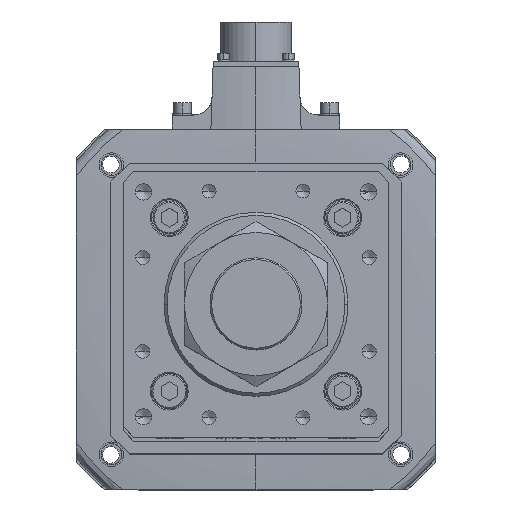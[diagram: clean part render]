
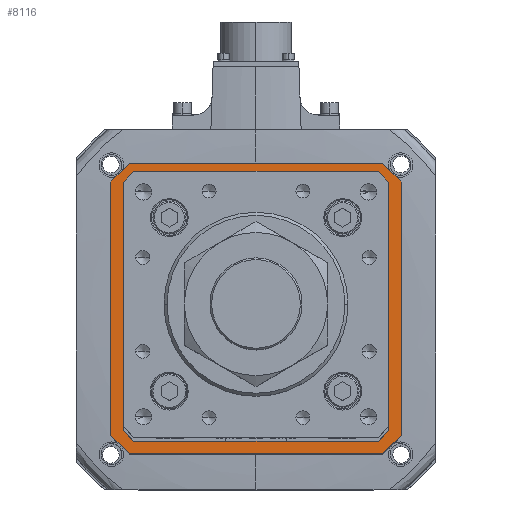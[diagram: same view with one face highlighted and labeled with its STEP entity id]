
A CAD part, top view. The second image highlights one B-rep face of the part: STEP entity #8116.
In plain terms, the highlighted planar face has unit normal (0, 0, 1).
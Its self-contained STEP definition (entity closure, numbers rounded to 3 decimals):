
#214 = EDGE_CURVE ( 'NONE', #35438, #10763, #54571, .T. ) ;
#767 = ORIENTED_EDGE ( 'NONE', *, *, #33513, .F. ) ;
#1203 = ORIENTED_EDGE ( 'NONE', *, *, #32054, .T. ) ;
#1259 = ORIENTED_EDGE ( 'NONE', *, *, #214, .F. ) ;
#1276 = LINE ( 'NONE', #25733, #31953 ) ;
#1422 = LINE ( 'NONE', #43542, #14830 ) ;
#1455 = VERTEX_POINT ( 'NONE', #46460 ) ;
#2512 = VERTEX_POINT ( 'NONE', #55108 ) ;
#3162 = VECTOR ( 'NONE', #33665, 1000. ) ;
#3358 = VECTOR ( 'NONE', #19292, 1000. ) ;
#3932 = VERTEX_POINT ( 'NONE', #12748 ) ;
#3950 = CARTESIAN_POINT ( 'NONE',  ( 71., 62., -142. ) ) ;
#4271 = LINE ( 'NONE', #4975, #43623 ) ;
#4939 = LINE ( 'NONE', #38077, #6247 ) ;
#4975 = CARTESIAN_POINT ( 'NONE',  ( 71., -62., -142. ) ) ;
#5162 = VERTEX_POINT ( 'NONE', #19109 ) ;
#5353 = DIRECTION ( 'NONE',  ( -0.707, -0.707, 0. ) ) ;
#5447 = EDGE_LOOP ( 'NONE', ( #40966, #34181, #22089, #14671, #17007, #1203, #17666, #23920 ) ) ;
#5707 = FACE_BOUND ( 'NONE', #5447, .T. ) ;
#5872 = CARTESIAN_POINT ( 'NONE',  ( -62., 71., -142. ) ) ;
#5990 = EDGE_CURVE ( 'NONE', #3932, #1455, #43862, .T. ) ;
#6181 = DIRECTION ( 'NONE',  ( -0.707, -0.707, 0. ) ) ;
#6195 = LINE ( 'NONE', #14501, #46856 ) ;
#6247 = VECTOR ( 'NONE', #45894, 1000. ) ;
#7534 = CARTESIAN_POINT ( 'NONE',  ( 58.793, 63., -142. ) ) ;
#7679 = VERTEX_POINT ( 'NONE', #3950 ) ;
#8116 = ADVANCED_FACE ( 'NONE', ( #5707, #44323 ), #29434, .T. ) ;
#9636 = CARTESIAN_POINT ( 'NONE',  ( 62., 71., -142. ) ) ;
#10726 = CARTESIAN_POINT ( 'NONE',  ( -62., -71., -142. ) ) ;
#10763 = VERTEX_POINT ( 'NONE', #50326 ) ;
#11258 = CARTESIAN_POINT ( 'NONE',  ( -60.896, -60.896, -142. ) ) ;
#11337 = ORIENTED_EDGE ( 'NONE', *, *, #40834, .F. ) ;
#11488 = DIRECTION ( 'NONE',  ( -1., 0., 0. ) ) ;
#11883 = CARTESIAN_POINT ( 'NONE',  ( -71., 62., -142. ) ) ;
#12432 = VERTEX_POINT ( 'NONE', #7534 ) ;
#12748 = CARTESIAN_POINT ( 'NONE',  ( 58.793, -63., -142. ) ) ;
#12897 = CARTESIAN_POINT ( 'NONE',  ( 71., -62., -142. ) ) ;
#13267 = VECTOR ( 'NONE', #18739, 1000. ) ;
#13415 = VECTOR ( 'NONE', #11488, 1000. ) ;
#13471 = CARTESIAN_POINT ( 'NONE',  ( -63., 58.793, -142. ) ) ;
#14501 = CARTESIAN_POINT ( 'NONE',  ( 63., 0., -142. ) ) ;
#14671 = ORIENTED_EDGE ( 'NONE', *, *, #35972, .T. ) ;
#14830 = VECTOR ( 'NONE', #34633, 1000. ) ;
#15611 = EDGE_CURVE ( 'NONE', #41289, #3932, #32787, .T. ) ;
#16037 = EDGE_CURVE ( 'NONE', #2512, #33831, #30774, .T. ) ;
#16575 = VECTOR ( 'NONE', #36544, 1000. ) ;
#17007 = ORIENTED_EDGE ( 'NONE', *, *, #48655, .T. ) ;
#17027 = VERTEX_POINT ( 'NONE', #44853 ) ;
#17043 = CARTESIAN_POINT ( 'NONE',  ( 63., -58.793, -142. ) ) ;
#17666 = ORIENTED_EDGE ( 'NONE', *, *, #41159, .T. ) ;
#18739 = DIRECTION ( 'NONE',  ( 0.707, 0.707, 0. ) ) ;
#19109 = CARTESIAN_POINT ( 'NONE',  ( -63., -58.793, -142. ) ) ;
#19292 = DIRECTION ( 'NONE',  ( -0.707, 0.707, 0. ) ) ;
#19914 = VERTEX_POINT ( 'NONE', #37409 ) ;
#20483 = CARTESIAN_POINT ( 'NONE',  ( 0., 0., -142. ) ) ;
#20928 = LINE ( 'NONE', #51856, #42229 ) ;
#21234 = DIRECTION ( 'NONE',  ( 0., 0., 1. ) ) ;
#22089 = ORIENTED_EDGE ( 'NONE', *, *, #5990, .T. ) ;
#22250 = EDGE_LOOP ( 'NONE', ( #36231, #1259, #48250, #22422, #767, #11337, #39339, #55309 ) ) ;
#22422 = ORIENTED_EDGE ( 'NONE', *, *, #16037, .F. ) ;
#23436 = VECTOR ( 'NONE', #53177, 1000. ) ;
#23920 = ORIENTED_EDGE ( 'NONE', *, *, #54944, .T. ) ;
#25368 = VERTEX_POINT ( 'NONE', #13471 ) ;
#25733 = CARTESIAN_POINT ( 'NONE',  ( -63., 0., -142. ) ) ;
#26058 = CARTESIAN_POINT ( 'NONE',  ( -71., -62., -142. ) ) ;
#27443 = CARTESIAN_POINT ( 'NONE',  ( 60.896, -60.896, -142. ) ) ;
#27559 = VECTOR ( 'NONE', #30190, 1000. ) ;
#28853 = EDGE_CURVE ( 'NONE', #17027, #7679, #51732, .T. ) ;
#29434 = PLANE ( 'NONE',  #29808 ) ;
#29808 = AXIS2_PLACEMENT_3D ( 'NONE', #20483, #21234, #38345 ) ;
#30190 = DIRECTION ( 'NONE',  ( 0.707, 0.707, 0. ) ) ;
#30774 = LINE ( 'NONE', #10726, #23436 ) ;
#31579 = VERTEX_POINT ( 'NONE', #12897 ) ;
#31953 = VECTOR ( 'NONE', #51401, 1000. ) ;
#32054 = EDGE_CURVE ( 'NONE', #25368, #48063, #38896, .T. ) ;
#32279 = CARTESIAN_POINT ( 'NONE',  ( 0., -63., -142. ) ) ;
#32761 = CARTESIAN_POINT ( 'NONE',  ( 62., -71., -142. ) ) ;
#32787 = LINE ( 'NONE', #27443, #38755 ) ;
#33333 = LINE ( 'NONE', #9636, #42651 ) ;
#33513 = EDGE_CURVE ( 'NONE', #47599, #2512, #50748, .T. ) ;
#33665 = DIRECTION ( 'NONE',  ( 0.707, -0.707, 0. ) ) ;
#33831 = VERTEX_POINT ( 'NONE', #26058 ) ;
#33851 = CARTESIAN_POINT ( 'NONE',  ( 60.896, 60.896, -142. ) ) ;
#34181 = ORIENTED_EDGE ( 'NONE', *, *, #15611, .T. ) ;
#34633 = DIRECTION ( 'NONE',  ( 0., -1., 0. ) ) ;
#35438 = VERTEX_POINT ( 'NONE', #11883 ) ;
#35972 = EDGE_CURVE ( 'NONE', #1455, #5162, #48666, .T. ) ;
#36231 = ORIENTED_EDGE ( 'NONE', *, *, #52563, .F. ) ;
#36381 = CARTESIAN_POINT ( 'NONE',  ( 71., 62., -142. ) ) ;
#36544 = DIRECTION ( 'NONE',  ( -1., 0., 0. ) ) ;
#37409 = CARTESIAN_POINT ( 'NONE',  ( 63., 58.793, -142. ) ) ;
#38077 = CARTESIAN_POINT ( 'NONE',  ( 0., 63., -142. ) ) ;
#38345 = DIRECTION ( 'NONE',  ( 1., 0., 0. ) ) ;
#38755 = VECTOR ( 'NONE', #6181, 1000. ) ;
#38896 = LINE ( 'NONE', #39306, #27559 ) ;
#39306 = CARTESIAN_POINT ( 'NONE',  ( -60.896, 60.896, -142. ) ) ;
#39339 = ORIENTED_EDGE ( 'NONE', *, *, #42449, .F. ) ;
#39753 = DIRECTION ( 'NONE',  ( 0., 1., 0. ) ) ;
#40834 = EDGE_CURVE ( 'NONE', #31579, #47599, #4271, .T. ) ;
#40966 = ORIENTED_EDGE ( 'NONE', *, *, #41794, .T. ) ;
#41159 = EDGE_CURVE ( 'NONE', #48063, #12432, #4939, .T. ) ;
#41289 = VERTEX_POINT ( 'NONE', #17043 ) ;
#41794 = EDGE_CURVE ( 'NONE', #19914, #41289, #6195, .T. ) ;
#42229 = VECTOR ( 'NONE', #39753, 1000. ) ;
#42449 = EDGE_CURVE ( 'NONE', #7679, #31579, #1422, .T. ) ;
#42651 = VECTOR ( 'NONE', #52096, 1000. ) ;
#43542 = CARTESIAN_POINT ( 'NONE',  ( 71., 62., -142. ) ) ;
#43623 = VECTOR ( 'NONE', #5353, 1000. ) ;
#43862 = LINE ( 'NONE', #32279, #16575 ) ;
#44279 = DIRECTION ( 'NONE',  ( 0., -1., 0. ) ) ;
#44323 = FACE_OUTER_BOUND ( 'NONE', #22250, .T. ) ;
#44828 = CARTESIAN_POINT ( 'NONE',  ( 62., -71., -142. ) ) ;
#44853 = CARTESIAN_POINT ( 'NONE',  ( 62., 71., -142. ) ) ;
#45095 = DIRECTION ( 'NONE',  ( 0.707, -0.707, 0. ) ) ;
#45740 = VECTOR ( 'NONE', #45095, 1000. ) ;
#45887 = EDGE_CURVE ( 'NONE', #33831, #35438, #20928, .T. ) ;
#45894 = DIRECTION ( 'NONE',  ( 1., 0., 0. ) ) ;
#46460 = CARTESIAN_POINT ( 'NONE',  ( -58.793, -63., -142. ) ) ;
#46856 = VECTOR ( 'NONE', #44279, 1000. ) ;
#47599 = VERTEX_POINT ( 'NONE', #44828 ) ;
#48063 = VERTEX_POINT ( 'NONE', #48696 ) ;
#48250 = ORIENTED_EDGE ( 'NONE', *, *, #45887, .F. ) ;
#48655 = EDGE_CURVE ( 'NONE', #5162, #25368, #1276, .T. ) ;
#48666 = LINE ( 'NONE', #11258, #3358 ) ;
#48696 = CARTESIAN_POINT ( 'NONE',  ( -58.793, 63., -142. ) ) ;
#50326 = CARTESIAN_POINT ( 'NONE',  ( -62., 71., -142. ) ) ;
#50748 = LINE ( 'NONE', #32761, #13415 ) ;
#51401 = DIRECTION ( 'NONE',  ( 0., 1., 0. ) ) ;
#51732 = LINE ( 'NONE', #36381, #45740 ) ;
#51856 = CARTESIAN_POINT ( 'NONE',  ( -71., 62., -142. ) ) ;
#52096 = DIRECTION ( 'NONE',  ( 1., 0., 0. ) ) ;
#52563 = EDGE_CURVE ( 'NONE', #10763, #17027, #33333, .T. ) ;
#53177 = DIRECTION ( 'NONE',  ( -0.707, 0.707, 0. ) ) ;
#54495 = LINE ( 'NONE', #33851, #3162 ) ;
#54571 = LINE ( 'NONE', #5872, #13267 ) ;
#54944 = EDGE_CURVE ( 'NONE', #12432, #19914, #54495, .T. ) ;
#55108 = CARTESIAN_POINT ( 'NONE',  ( -62., -71., -142. ) ) ;
#55309 = ORIENTED_EDGE ( 'NONE', *, *, #28853, .F. ) ;
